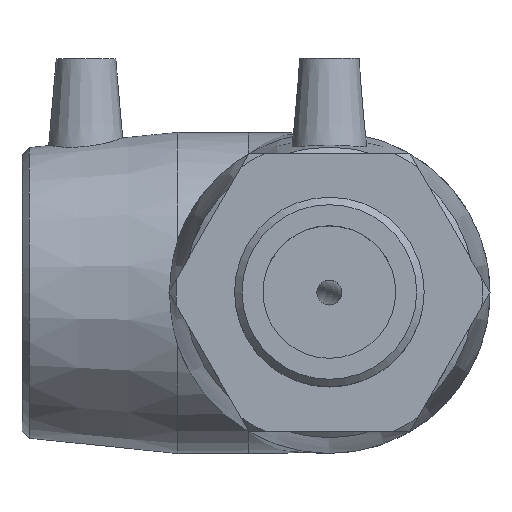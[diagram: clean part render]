
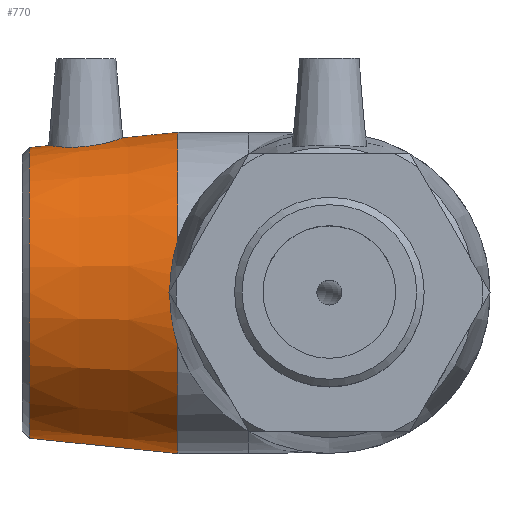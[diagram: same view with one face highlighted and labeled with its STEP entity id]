
A CAD part, top view. The second image highlights one B-rep face of the part: STEP entity #770.
In plain terms, the highlighted conical face has half-angle 5.879 degrees and reference radius 38.475 mm.
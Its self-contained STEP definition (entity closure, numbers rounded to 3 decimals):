
#77=B_SPLINE_CURVE_WITH_KNOTS('',3,(#1241,#1242,#1243,#1244,#1245,#1246,
#1247,#1248,#1249,#1250,#1251,#1252,#1253,#1254,#1255,#1256,#1257,#1258,
#1259,#1260,#1261,#1262,#1263,#1264,#1265,#1266,#1267,#1268,#1269,#1270,
#1271,#1272,#1273,#1274),.UNSPECIFIED.,.T.,.F.,(4,2,2,2,2,2,2,2,2,2,2,2,
2,2,2,2,4),(0.,0.347,0.694,1.043,1.392,
1.741,2.09,2.437,2.784,3.151,
3.518,3.878,4.239,4.599,4.959,
5.327,5.694),.UNSPECIFIED.);
#79=ELLIPSE('',#844,63.507,44.667);
#84=CONICAL_SURFACE('',#843,38.475,5.879);
#135=FACE_BOUND('',#243,.T.);
#136=FACE_BOUND('',#244,.T.);
#175=FACE_OUTER_BOUND('',#242,.T.);
#242=EDGE_LOOP('',(#568,#569));
#243=EDGE_LOOP('',(#570));
#244=EDGE_LOOP('',(#571));
#336=CIRCLE('',#842,36.644);
#337=CIRCLE('',#845,40.5);
#387=VERTEX_POINT('',#1233);
#388=VERTEX_POINT('',#1236);
#389=VERTEX_POINT('',#1237);
#390=VERTEX_POINT('',#1240);
#464=EDGE_CURVE('',#387,#387,#336,.T.);
#465=EDGE_CURVE('',#388,#389,#79,.T.);
#466=EDGE_CURVE('',#388,#389,#337,.T.);
#467=EDGE_CURVE('',#390,#390,#77,.T.);
#568=ORIENTED_EDGE('',*,*,#465,.T.);
#569=ORIENTED_EDGE('',*,*,#466,.F.);
#570=ORIENTED_EDGE('',*,*,#467,.T.);
#571=ORIENTED_EDGE('',*,*,#464,.F.);
#770=ADVANCED_FACE('',(#175,#135,#136),#84,.T.);
#842=AXIS2_PLACEMENT_3D('',#1234,#974,#975);
#843=AXIS2_PLACEMENT_3D('',#1235,#976,#977);
#844=AXIS2_PLACEMENT_3D('',#1238,#978,#979);
#845=AXIS2_PLACEMENT_3D('',#1239,#980,#981);
#974=DIRECTION('center_axis',(-1.,0.,0.));
#975=DIRECTION('ref_axis',(0.,-1.,0.));
#976=DIRECTION('center_axis',(1.,0.,0.));
#977=DIRECTION('ref_axis',(0.,1.,0.));
#978=DIRECTION('center_axis',(-0.707,0.,-0.707));
#979=DIRECTION('ref_axis',(-0.707,0.,0.707));
#980=DIRECTION('center_axis',(1.,0.,0.));
#981=DIRECTION('ref_axis',(0.,0.,-1.));
#1233=CARTESIAN_POINT('',(-75.62,36.644,0.));
#1234=CARTESIAN_POINT('Origin',(-75.62,0.,0.));
#1235=CARTESIAN_POINT('Origin',(-57.833,0.,
0.));
#1236=CARTESIAN_POINT('',(-38.167,-13.548,38.167));
#1237=CARTESIAN_POINT('',(-38.167,13.548,38.167));
#1238=CARTESIAN_POINT('Origin',(4.624,0.,-4.624));
#1239=CARTESIAN_POINT('Origin',(-38.167,0.,
0.));
#1240=CARTESIAN_POINT('',(-61.683,36.893,9.429));
#1241=CARTESIAN_POINT('Ctrl Pts',(-61.683,36.893,9.429));
#1242=CARTESIAN_POINT('Ctrl Pts',(-62.833,36.778,9.399));
#1243=CARTESIAN_POINT('Ctrl Pts',(-64.058,36.717,9.139));
#1244=CARTESIAN_POINT('Ctrl Pts',(-66.303,36.713,8.147));
#1245=CARTESIAN_POINT('Ctrl Pts',(-67.322,36.767,7.416));
#1246=CARTESIAN_POINT('Ctrl Pts',(-68.93,36.897,5.749));
#1247=CARTESIAN_POINT('Ctrl Pts',(-69.625,36.981,4.698));
#1248=CARTESIAN_POINT('Ctrl Pts',(-70.547,37.106,2.405));
#1249=CARTESIAN_POINT('Ctrl Pts',(-70.772,37.143,1.163));
#1250=CARTESIAN_POINT('Ctrl Pts',(-70.772,37.143,-1.163));
#1251=CARTESIAN_POINT('Ctrl Pts',(-70.547,37.106,-2.405));
#1252=CARTESIAN_POINT('Ctrl Pts',(-69.625,36.981,-4.698));
#1253=CARTESIAN_POINT('Ctrl Pts',(-68.93,36.897,-5.749));
#1254=CARTESIAN_POINT('Ctrl Pts',(-67.322,36.767,-7.416));
#1255=CARTESIAN_POINT('Ctrl Pts',(-66.303,36.713,-8.147));
#1256=CARTESIAN_POINT('Ctrl Pts',(-64.058,36.717,-9.139));
#1257=CARTESIAN_POINT('Ctrl Pts',(-62.833,36.778,-9.399));
#1258=CARTESIAN_POINT('Ctrl Pts',(-60.465,37.014,-9.46));
#1259=CARTESIAN_POINT('Ctrl Pts',(-59.174,37.211,-9.237));
#1260=CARTESIAN_POINT('Ctrl Pts',(-56.808,37.685,-8.283));
#1261=CARTESIAN_POINT('Ctrl Pts',(-55.732,37.957,-7.552));
#1262=CARTESIAN_POINT('Ctrl Pts',(-54.05,38.428,-5.869));
#1263=CARTESIAN_POINT('Ctrl Pts',(-53.324,38.659,-4.81));
#1264=CARTESIAN_POINT('Ctrl Pts',(-52.357,38.978,-2.476));
#1265=CARTESIAN_POINT('Ctrl Pts',(-52.116,39.064,-1.201));
#1266=CARTESIAN_POINT('Ctrl Pts',(-52.116,39.064,1.201));
#1267=CARTESIAN_POINT('Ctrl Pts',(-52.357,38.978,2.476));
#1268=CARTESIAN_POINT('Ctrl Pts',(-53.324,38.659,4.81));
#1269=CARTESIAN_POINT('Ctrl Pts',(-54.05,38.428,5.869));
#1270=CARTESIAN_POINT('Ctrl Pts',(-55.732,37.957,7.552));
#1271=CARTESIAN_POINT('Ctrl Pts',(-56.808,37.685,8.283));
#1272=CARTESIAN_POINT('Ctrl Pts',(-59.174,37.211,9.237));
#1273=CARTESIAN_POINT('Ctrl Pts',(-60.465,37.014,9.46));
#1274=CARTESIAN_POINT('Ctrl Pts',(-61.683,36.893,9.429));
